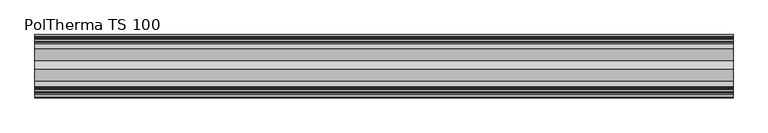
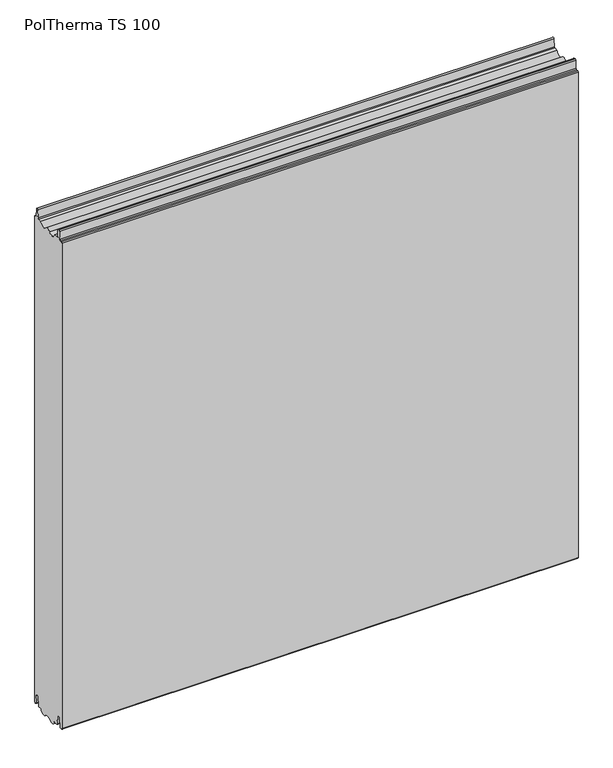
"""IFC4 building model written with IfcOpenShell, lengths in millimetres: plate geometry, Europanels_Poltherma TS_Hz : PolTherma TS 100."""

from ifc_helpers import new_model, si_unit, point, frame, frame_2d, origin, place, context, project, spatial, polyline, circle_curve, trimmed, segment, composite_curve, outline, extrude, source, transform, mapped, element, save


def poltherma_ts_100_0bb2fc31(model_context):
    return source(origin(), model_context, "Body", "SweptSolid", [
        extrude(outline(composite_curve([segment(trimmed(circle_curve(frame_2d((-48.0, 1096.5011047)), 2.0), [point((-50.0, 1096.5011047))], [point((-48.0, 1098.5011047))], False, "CARTESIAN"), True, "CONTINUOUS"), segment(polyline([(-48.0, 1098.5011047), (-44.244573, 1098.5011047)]), True, "CONTINUOUS"), segment(trimmed(circle_curve(frame_2d((-44.244573, 1100.5011047)), 2.0), [point((-44.244573, 1098.5011047))], [point((-42.2483736, 1100.3778643))], True, "CARTESIAN"), True, "CONTINUOUS"), segment(polyline([(-42.2483736, 1100.3778643), (-41.1836192, 1117.624345)]), True, "CONTINUOUS"), segment(trimmed(circle_curve(frame_2d((-39.1874198, 1117.5011047)), 2.0), [point((-41.1836192, 1117.624345))], [point((-39.1874198, 1119.5011047))], False, "CARTESIAN"), True, "CONTINUOUS"), segment(polyline([(-39.1874198, 1119.5011047), (-36.4480373, 1119.5011047)]), True, "CONTINUOUS"), segment(trimmed(circle_curve(frame_2d((-36.4480373, 1117.5011047)), 2.0), [point((-36.4480373, 1119.5011047))], [point((-34.4498501, 1117.5862394))], False, "CARTESIAN"), True, "CONTINUOUS"), segment(polyline([(-34.4498501, 1117.5862394), (-33.7101357, 1100.2244834)]), True, "CONTINUOUS"), segment(trimmed(circle_curve(frame_2d((-31.9117672, 1100.3011047)), 1.8), [point((-33.7101357, 1100.2244834))], [point((-31.9117672, 1098.5011047))], True, "CARTESIAN"), True, "CONTINUOUS"), segment(polyline([(-31.9117672, 1098.5011047), (-22.9234285, 1098.5011047)]), True, "CONTINUOUS"), segment(trimmed(circle_curve(frame_2d((-12.3, 1101.354658)), 11.0), [point((-22.9234285, 1098.5011047))], [point((-4.05, 1094.0788419))], True, "CARTESIAN"), True, "CONTINUOUS"), segment(trimmed(circle_curve(frame_2d((2.7, 1088.1259015)), 9.0), [point((-4.05, 1094.0788419))], [point((9.45, 1094.0788419))], False, "CARTESIAN"), True, "CONTINUOUS"), segment(trimmed(circle_curve(frame_2d((17.7, 1101.354658)), 11.0), [point((9.45, 1094.0788419))], [point((28.3234285, 1098.5011047))], True, "CARTESIAN"), True, "CONTINUOUS"), segment(polyline([(28.3234285, 1098.5011047), (36.113894, 1098.5011047)]), True, "CONTINUOUS"), segment(trimmed(circle_curve(frame_2d((36.113894, 1100.5011047)), 2.0), [point((36.113894, 1098.5011047))], [point((38.1120505, 1100.4152514))], True, "CARTESIAN"), True, "CONTINUOUS"), segment(polyline([(38.1120505, 1100.4152514), (38.8418822, 1117.4014159)]), True, "CONTINUOUS"), segment(trimmed(circle_curve(frame_2d((41.019533, 1117.3078504)), 2.1796599), [point((38.8418822, 1117.4014159))], [point((43.1949638, 1117.4435621))], False, "CARTESIAN"), True, "CONTINUOUS"), segment(polyline([(43.1949638, 1117.4435621), (44.2596673, 1100.3765791)]), True, "CONTINUOUS"), segment(trimmed(circle_curve(frame_2d((46.2557869, 1100.5011047)), 2.0), [point((44.2596673, 1100.3765791))], [point((46.2557869, 1098.5011047))], True, "CARTESIAN"), True, "CONTINUOUS"), segment(polyline([(46.2557869, 1098.5011047), (48.0, 1098.5011047)]), True, "CONTINUOUS"), segment(trimmed(circle_curve(frame_2d((48.0, 1096.5011047)), 2.0), [point((48.0, 1098.5011047))], [point((50.0, 1096.5011047))], False, "CARTESIAN"), True, "CONTINUOUS"), segment(polyline([(50.0, 1096.5011047), (50.0, 3.8418901)]), True, "CONTINUOUS"), segment(trimmed(circle_curve(frame_2d((47.632528, 3.8418901)), 2.367472), [point((50.0, 3.8418901))], [point((45.2685131, 3.7139946))], False, "CARTESIAN"), True, "CONTINUOUS"), segment(polyline([(45.2685131, 3.7139946), (44.3287441, 21.084649)]), True, "CONTINUOUS"), segment(trimmed(circle_curve(frame_2d((41.0497127, 20.9072503)), 3.2838266), [point((44.3287441, 21.084649))], [point((37.7713293, 21.0962469))], True, "CARTESIAN"), True, "CONTINUOUS"), segment(polyline([(37.7713293, 21.0962469), (36.7366349, 3.1481762)]), True, "CONTINUOUS"), segment(trimmed(circle_curve(frame_2d((34.9895357, 3.2488953)), 1.75), [point((36.7366349, 3.1481762))], [point((34.9895357, 1.4988953))], False, "CARTESIAN"), True, "CONTINUOUS"), segment(polyline([(34.9895357, 1.4988953), (27.5267156, 1.4988953)]), True, "CONTINUOUS"), segment(trimmed(circle_curve(frame_2d((17.7, 3.3524487)), 10.0), [point((27.5267156, 1.4988953))], [point((10.2, -3.2619295))], False, "CARTESIAN"), True, "CONTINUOUS"), segment(trimmed(circle_curve(frame_2d((2.7, -9.8763078)), 10.0), [point((10.2, -3.2619295))], [point((-4.8, -3.2619295))], True, "CARTESIAN"), True, "CONTINUOUS"), segment(trimmed(circle_curve(frame_2d((-12.3, 3.3524487)), 10.0), [point((-4.8, -3.2619295))], [point((-22.1267156, 1.4988953))], False, "CARTESIAN"), True, "CONTINUOUS"), segment(polyline([(-22.1267156, 1.4988953), (-30.5507777, 1.4988953)]), True, "CONTINUOUS"), segment(trimmed(circle_curve(frame_2d((-30.5507777, 3.2988953)), 1.8), [point((-30.5507777, 1.4988953))], [point((-32.3477941, 3.1952985))], False, "CARTESIAN"), True, "CONTINUOUS"), segment(polyline([(-32.3477941, 3.1952985), (-33.3842966, 21.1747334)]), True, "CONTINUOUS"), segment(trimmed(circle_curve(frame_2d((-36.3793238, 21.0020721)), 3.0), [point((-33.3842966, 21.1747334))], [point((-36.3793238, 24.0020721))], True, "CARTESIAN"), True, "CONTINUOUS"), segment(polyline([(-36.3793238, 24.0020721), (-39.3209015, 24.0020721)]), True, "CONTINUOUS"), segment(trimmed(circle_curve(frame_2d((-39.3209015, 21.0020721)), 3.0), [point((-39.3209015, 24.0020721))], [point((-42.3165207, 21.1641379))], True, "CARTESIAN"), True, "CONTINUOUS"), segment(polyline([(-42.3165207, 21.1641379), (-43.2780726, 3.3908514)]), True, "CONTINUOUS"), segment(trimmed(circle_curve(frame_2d((-45.2751521, 3.4988953)), 2.0), [point((-43.2780726, 3.3908514))], [point((-45.2751521, 1.4988953))], False, "CARTESIAN"), True, "CONTINUOUS"), segment(polyline([(-45.2751521, 1.4988953), (-48.0, 1.4988953)]), True, "CONTINUOUS"), segment(trimmed(circle_curve(frame_2d((-48.0, 3.4988953)), 2.0), [point((-48.0, 1.4988953))], [point((-50.0, 3.4988953))], False, "CARTESIAN"), True, "CONTINUOUS"), segment(polyline([(-50.0, 3.4988953), (-50.0, 1096.5011047)]), True, "CONTINUOUS")], self_intersect=False)), frame((-550.0, 0.0, 0.0), z_axis=(1.0, 0.0, 0.0), x_axis=(0.0, 1.0, 0.0)), (0.0, 0.0, 1.0), 1100.0),
    ])


if __name__ == "__main__":
    model = new_model("IFC4")
    model_context = context("Model", 3, world=origin())
    ifc_project = project(units=[si_unit("LENGTHUNIT", "METRE", prefix="MILLI")], contexts=[model_context])
    site = spatial("IfcSite", under=ifc_project)
    building = spatial("IfcBuilding", under=site)
    placement = place(None, origin())
    poltherma_ts_100_shape = poltherma_ts_100_0bb2fc31(model_context)
    element("IfcPlate", 1, ObjectType="Europanels_Poltherma TS_Hz : PolTherma TS 100", at=placement, inside=building, context=model_context, shape_type="MappedRepresentation", body=[
        mapped(poltherma_ts_100_shape, transform((0.0, 0.0, 0.0), x_axis=(1.0, 0.0, 0.0), y_axis=(0.0, 1.0, 0.0), z_axis=(0.0, 0.0, 1.0))),
    ])
    save(model, "model.ifc")
